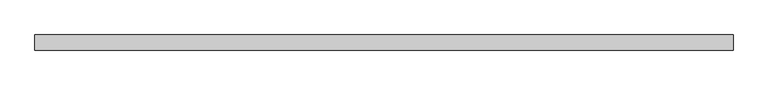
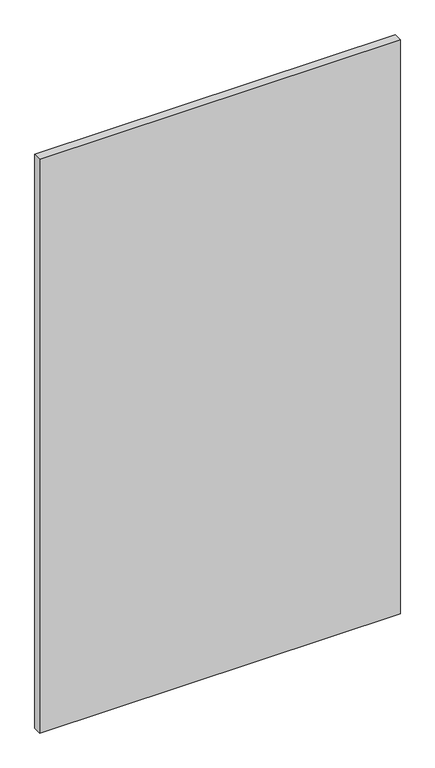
"""IFC4 building model written with IfcOpenShell, lengths in millimetres: plate geometry, Vitré."""

import ifcopenshell
import ifcopenshell.guid

model = None  # the IFC model being written
_history = None  # IfcOwnerHistory: only IFC2X3 demands one
_inside = {}  # id of a spatial element -> (the spatial element, [elements in it])
_under = {}  # id of a project, library or spatial element -> (it, [spatial elements below it])
_declared = {}  # id of a project -> (the project, [libraries it declares])
_typed = {}  # id of a type object -> (the type object, [elements of that type])
_made_of = {}  # id of a material, layer set ... -> (it, [elements and type objects made of it])


def new_model(schema):
    """Start an empty IFC model of exactly this schema.

    Asked for "IFC4X3", IfcOpenShell would pick the latest addendum, in which some entities
    have other attributes; the version numbers below select the first issue.
    IFC2X3 requires an IfcOwnerHistory on every rooted entity: one is made here for all.
    """
    global model, _history
    if schema == "IFC4X3":
        model = ifcopenshell.file(schema_version=(4, 3, 0, 0))
    else:
        model = ifcopenshell.file(schema=schema)
    _inside.clear()
    _under.clear()
    _declared.clear()
    _typed.clear()
    _made_of.clear()
    _history = None
    if model.schema == "IFC2X3":
        org = make("IfcOrganization", Name="unknown")
        user = make(
            "IfcPersonAndOrganization",
            ThePerson=make("IfcPerson", FamilyName="unknown"),
            TheOrganization=org,
        )
        app = make(
            "IfcApplication",
            ApplicationDeveloper=org,
            Version="unknown",
            ApplicationFullName="unknown",
            ApplicationIdentifier="unknown",
        )
        _history = make(
            "IfcOwnerHistory",
            OwningUser=user,
            OwningApplication=app,
            ChangeAction="ADDED",
            CreationDate=0,
        )
    return model


def make(cls, **values):
    """One entity of the class cls with the attributes given. An attribute that is None is left unset."""
    return model.create_entity(
        cls, **{name: value for name, value in values.items() if value is not None}
    )


def rooted(cls, **values):
    """An entity with a GlobalId (a new one), such as an element, a storey or a relation."""
    return make(cls, GlobalId=ifcopenshell.guid.new(), OwnerHistory=_history, **values)


def si_unit(unit_type, name, prefix=None):
    """IfcSIUnit, for example si_unit("LENGTHUNIT", "METRE", prefix="MILLI")."""
    return make("IfcSIUnit", UnitType=unit_type, Prefix=prefix, Name=name)


def assignment(units):
    """IfcUnitAssignment: the units of a project."""
    return None if units is None else make("IfcUnitAssignment", Units=units)


def point(xyz):
    """IfcCartesianPoint."""
    return None if xyz is None else make("IfcCartesianPoint", Coordinates=xyz)


def direction(xyz):
    """IfcDirection."""
    return None if xyz is None else make("IfcDirection", DirectionRatios=xyz)


def frame(location, z_axis=None, x_axis=None):
    """IfcAxis2Placement3D, a coordinate frame: its origin and axes. An axis left out is left unset."""
    return make(
        "IfcAxis2Placement3D",
        Location=point(location),
        Axis=direction(z_axis),
        RefDirection=direction(x_axis),
    )


def origin():
    """The frame at (0, 0, 0) with its axes left unset."""
    return frame((0.0, 0.0, 0.0))


def origin_with_axes():
    """The frame at (0, 0, 0) with the z axis (0, 0, 1) and the x axis (1, 0, 0) written out."""
    return frame((0.0, 0.0, 0.0), z_axis=(0.0, 0.0, 1.0), x_axis=(1.0, 0.0, 0.0))


def place(relative_to, where):
    """IfcLocalPlacement: puts the frame where relative to a parent placement (None: the world)."""
    return make(
        "IfcLocalPlacement", PlacementRelTo=relative_to, RelativePlacement=where
    )


def context(
    kind, dimensions, precision=None, world=None, true_north=None, identifier=None
):
    """IfcGeometricRepresentationContext, for example the 3D "Model" context."""
    return make(
        "IfcGeometricRepresentationContext",
        ContextIdentifier=identifier,
        ContextType=kind,
        CoordinateSpaceDimension=dimensions,
        Precision=precision,
        WorldCoordinateSystem=world,
        TrueNorth=true_north,
    )


def project(units=None, contexts=None):
    """IfcProject with its units and contexts."""
    return rooted(
        "IfcProject",
        Name="project",
        RepresentationContexts=contexts,
        UnitsInContext=assignment(units),
    )


def spatial(cls, under=None, at=None, **own):
    """A site, building, storey or space (cls), placed at a placement, below another one or the project."""
    s = rooted(cls, ObjectPlacement=at, **own)
    if under is not None:
        _under.setdefault(under.id(), (under, []))[1].append(s)
    return s


def polyline(points):
    """IfcPolyline through the points."""
    return make("IfcPolyline", Points=[point(p) for p in points])


def outline(outer, holes=None, kind="AREA"):
    """IfcArbitraryClosedProfileDef: a profile drawn as a closed curve; with holes, ...WithVoids."""
    if holes is None:
        return make("IfcArbitraryClosedProfileDef", ProfileType=kind, OuterCurve=outer)
    return make(
        "IfcArbitraryProfileDefWithVoids",
        ProfileType=kind,
        OuterCurve=outer,
        InnerCurves=holes,
    )


def extrude(swept, where, along, depth):
    """IfcExtrudedAreaSolid: the profile swept, set in the frame where, extruded along a direction by depth."""
    return make(
        "IfcExtrudedAreaSolid",
        SweptArea=swept,
        Position=where,
        ExtrudedDirection=direction(along),
        Depth=depth,
    )


def shape(context_of_items, identifier, shape_type, items):
    """IfcShapeRepresentation: the items that make up one representation, for example the "Body"."""
    return make(
        "IfcShapeRepresentation",
        ContextOfItems=context_of_items,
        RepresentationIdentifier=identifier,
        RepresentationType=shape_type,
        Items=items,
    )


def source(mapping_origin, context_of_items, identifier, shape_type, items):
    """IfcRepresentationMap: a shape defined once, which mapped items show again and again."""
    return make(
        "IfcRepresentationMap",
        MappingOrigin=mapping_origin,
        MappedRepresentation=shape(context_of_items, identifier, shape_type, items),
    )


def transform(
    local_origin,
    x_axis=None,
    y_axis=None,
    z_axis=None,
    scale=None,
    scale2=None,
    scale3=None,
    uniform=True,
):
    """IfcCartesianTransformationOperator3D, or its non-uniform kind. x_axis, y_axis, z_axis: its Axis1, 2, 3."""
    if uniform:
        return make(
            "IfcCartesianTransformationOperator3D",
            Axis1=direction(x_axis),
            Axis2=direction(y_axis),
            LocalOrigin=point(local_origin),
            Scale=scale,
            Axis3=direction(z_axis),
        )
    return make(
        "IfcCartesianTransformationOperator3DnonUniform",
        Axis1=direction(x_axis),
        Axis2=direction(y_axis),
        LocalOrigin=point(local_origin),
        Scale=scale,
        Axis3=direction(z_axis),
        Scale2=scale2,
        Scale3=scale3,
    )


def mapped(mapping_source, mapping_target):
    """IfcMappedItem: shows the shape of a source again, moved by a transform."""
    return make(
        "IfcMappedItem", MappingSource=mapping_source, MappingTarget=mapping_target
    )


def made_of(thing, what):
    """Note that an element or type object is made of a material, layer set ...; save() writes the relation."""
    if what is not None:
        _made_of.setdefault(what.id(), (what, []))[1].append(thing)
    return thing


def element(
    cls,
    number,
    at=None,
    inside=None,
    cuts=None,
    type_object=None,
    material=None,
    context=None,
    identifier="Body",
    shape_type=None,
    held_by="IfcProductDefinitionShape",
    body=None,
    shapes=None,
    **own,
):
    """One element of the class cls, such as IfcWall. Its Tag is "e" and its number.

    at: its placement. inside: the storey or other place that contains it. cuts: it is an
    opening in that element (IfcRelVoidsElement). A single representation is given by context,
    identifier, shape_type and body (its items); several are given by shapes. held_by: the class
    of the entity that holds the representations. save() writes the other relations.
    """
    e = rooted(cls, Tag="e%d" % number, ObjectPlacement=at, **own)
    if body is not None:
        shapes = [shape(context, identifier, shape_type, body)]
    if shapes is not None:
        e.Representation = make(held_by, Representations=shapes)
    if inside is not None:
        _inside.setdefault(inside.id(), (inside, []))[1].append(e)
    if cuts is not None:
        rooted(
            "IfcRelVoidsElement", RelatingBuildingElement=cuts, RelatedOpeningElement=e
        )
    if type_object is not None:
        _typed.setdefault(type_object.id(), (type_object, []))[1].append(e)
    return made_of(e, material)


def aggregate(whole, parts):
    """IfcRelAggregates: a whole, such as a stair, and the parts it consists of."""
    return rooted("IfcRelAggregates", RelatingObject=whole, RelatedObjects=parts)


def save(model, path):
    """Write the relations noted so far, then the file.

    IfcRelAggregates (storeys below a building ...), IfcRelContainedInSpatialStructure (elements
    in a storey), IfcRelDefinesByType, IfcRelAssociatesMaterial and IfcRelDeclares: one each for
    every whole, place, type object, material and project.
    """
    for whole, parts in _under.values():
        aggregate(whole, parts)
    for where, things in _inside.values():
        rooted(
            "IfcRelContainedInSpatialStructure",
            RelatedElements=things,
            RelatingStructure=where,
        )
    for kind, things in _typed.values():
        rooted("IfcRelDefinesByType", RelatedObjects=things, RelatingType=kind)
    for what, things in _made_of.values():
        rooted("IfcRelAssociatesMaterial", RelatedObjects=things, RelatingMaterial=what)
    for by, libraries in _declared.values():
        rooted("IfcRelDeclares", RelatingContext=by, RelatedDefinitions=libraries)
    model.write(path)


def plate_06d80575(model_context):
    return source(origin(), model_context, "Body", "SweptSolid", [
        extrude(outline(polyline([(-901.1061989, -20.0), (-901.1061989, 20.0), (901.1061989, 20.0), (901.1061989, -20.0), (-901.1061989, -20.0)])), origin_with_axes(), (0.0, 0.0, 1.0), 3030.0),
    ])


if __name__ == "__main__":
    model = new_model("IFC4")
    model_context = context("Model", 3, world=origin())
    ifc_project = project(units=[si_unit("LENGTHUNIT", "METRE", prefix="MILLI")], contexts=[model_context])
    site = spatial("IfcSite", under=ifc_project)
    building = spatial("IfcBuilding", under=site)
    placement = place(None, origin())
    plate_shape = plate_06d80575(model_context)
    element("IfcPlate", 1, ObjectType="Vitré", at=placement, inside=building, context=model_context, shape_type="MappedRepresentation", body=[
        mapped(plate_shape, transform((0.0, 0.0, 0.0), x_axis=(1.0, 0.0, 0.0), y_axis=(0.0, 1.0, 0.0), z_axis=(0.0, 0.0, 1.0))),
    ])
    save(model, "model.ifc")
